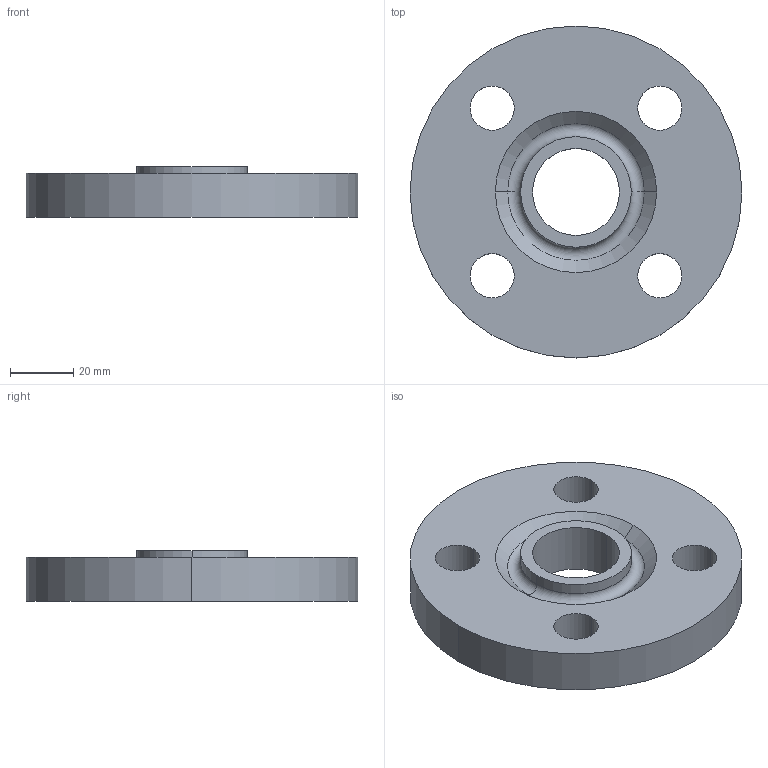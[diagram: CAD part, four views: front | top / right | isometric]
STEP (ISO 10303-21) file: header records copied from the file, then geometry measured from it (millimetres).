
FILE_DESCRIPTION (( 'STEP AP214' ), '1' );
FILE_NAME ('PN40 DN20 Type 01 - Type H Face.STEP', '2018-12-29T18:29:27', ( '' ), ( '' ), 'SwSTEP 2.0', 'SolidWorks 2019', '' );
FILE_SCHEMA (( 'AUTOMOTIVE_DESIGN' ));
Length unit declared in the file: millimetre
Products named in the file (1): PN40 DN20 Type 01 - Type H Face
Bounding box: 105 x 105 x 16 mm (x, y, z)
Volume: 102243.2 mm3; surface area: 24115.3 mm2
Topology: 1 solids, 1 shells, 21 faces, 50 edges, 32 vertices
Faces by surface type: cylinder 14, plane 3, torus 2, cone 2
Entity records: 680 total; most frequent: DIRECTION 128, CARTESIAN_POINT 104, ORIENTED_EDGE 100, AXIS2_PLACEMENT_3D 56, EDGE_CURVE 50, CIRCLE 34, VERTEX_POINT 32, EDGE_LOOP 32
